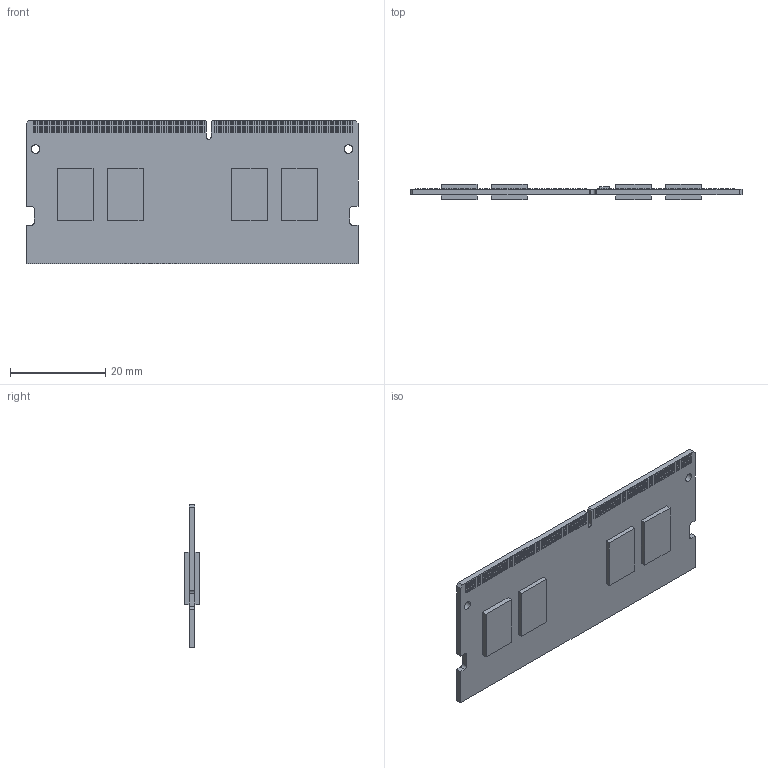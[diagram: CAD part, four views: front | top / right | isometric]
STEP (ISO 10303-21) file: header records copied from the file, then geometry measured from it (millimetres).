
FILE_DESCRIPTION((''),'2;1');
FILE_NAME('M4S0_4GSSNCSJ_S70_4GB_DDR4_2400_ASM','2018-11-02T17:16:57',('tingyun_lin'),(''),'CREO PARAMETRIC BY PTC INC, 2016510','CREO PARAMETRIC BY PTC INC, 2016510','');
FILE_SCHEMA(('AUTOMOTIVE_DESIGN { 1 0 10303 214 1 1 1 1 }'));
Length unit declared in the file: millimetre
Products named in the file (6): DRAM_SO-DIMM-260PIN_PCB; 2; 3; DRAM_DDR3L-2G-F; CONTROLLER; M4S0_4GSSNCSJ_S70_4GB_DDR4_2400_ASM
Assembly tree (12 placements, depth 2):
  M4S0_4GSSNCSJ_S70_4GB_DDR4_2400_ASM
    DRAM_SO-DIMM-260PIN_PCB
    2
    3
    DRAM_DDR3L-2G-F  x8
    CONTROLLER
Bounding box: 69.6 x 3.2 x 30 mm (x, y, z)
Volume: 3145.1 mm3; surface area: 6058 mm2
Topology: 10 solids, 10 shells, 1384 faces, 3312 edges, 2208 vertices
Faces by surface type: plane 1375, cylinder 9
Entity records: 51937 total; most frequent: CARTESIAN_POINT 6811, ORIENTED_EDGE 6456, DIRECTION 6044, PRESENTATION_STYLE_ASSIGNMENT 3498, STYLED_ITEM 3238, CURVE_STYLE 3228, EDGE_CURVE 3228, VECTOR 3210
